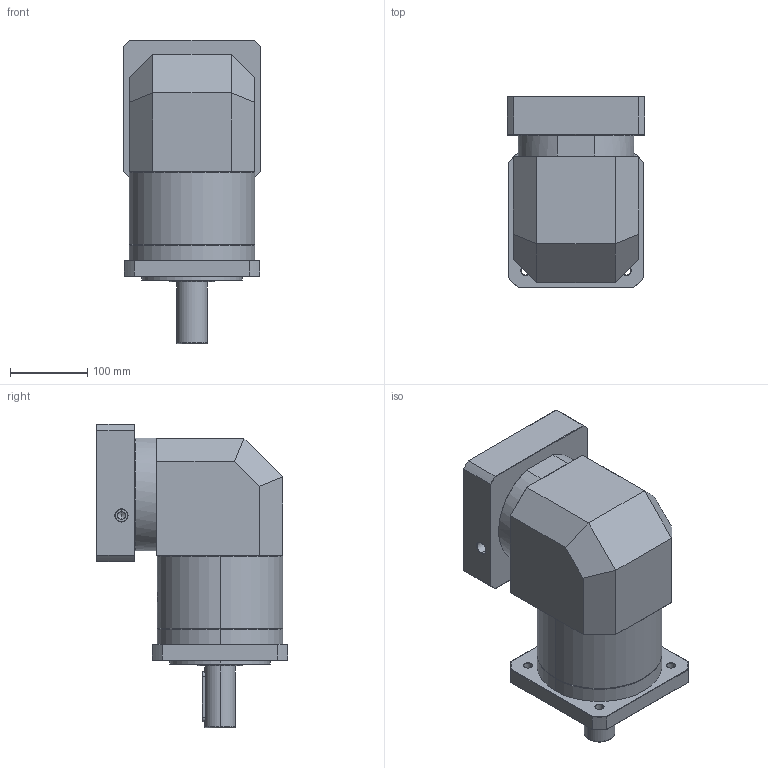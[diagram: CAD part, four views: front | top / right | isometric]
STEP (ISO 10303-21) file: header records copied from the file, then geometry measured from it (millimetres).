
FILE_DESCRIPTION (( 'STEP AP214' ), '1' );
FILE_NAME ('ZFR160A-D40-L2-P2-35-150-200-M12.step', '2023-09-03T08:58:38', ( '' ), ( '' ), 'SwSTEP 2.0', 'SolidWorks 2016', '' );
FILE_SCHEMA (( 'AUTOMOTIVE_DESIGN' ));
Length unit declared in the file: millimetre
Products named in the file (1): ZFR160A-D40-L2-P2-35-150-200-M12
Bounding box: 178 x 247.5 x 392.7 mm (x, y, z)
Volume: 7848996.1 mm3; surface area: 487730.8 mm2
Topology: 6 solids, 6 shells, 2190 faces, 5787 edges, 3705 vertices
Faces by surface type: plane 1046, bspline 410, cylinder 404, cone 308, torus 22
Entity records: 124718 total; most frequent: CARTESIAN_POINT 51721, ORIENTED_EDGE 11514, DIRECTION 8340, EDGE_CURVE 5757, VERTEX_POINT 3705, LINE 3082, VECTOR 3082, AXIS2_PLACEMENT_3D 2629
